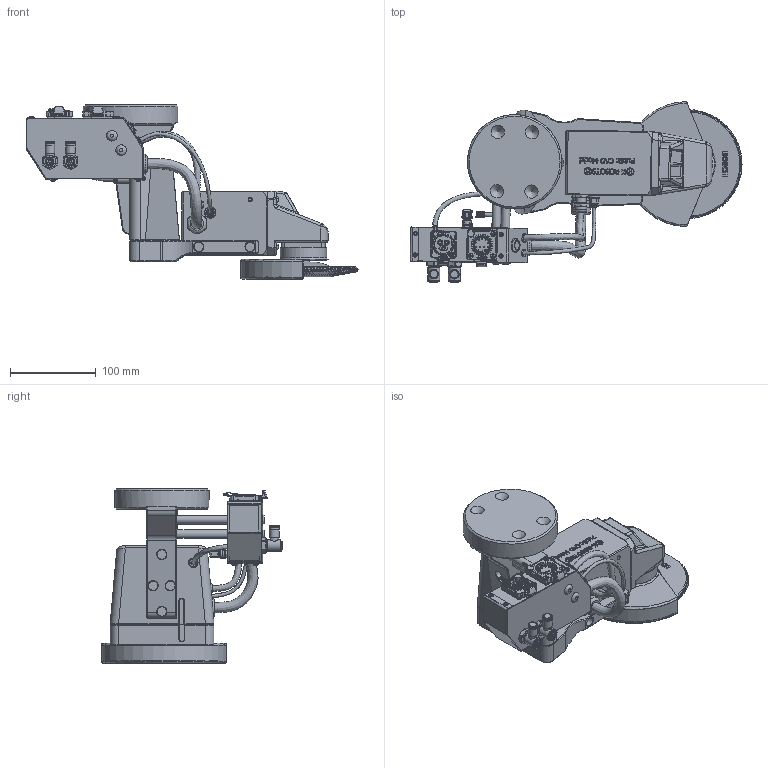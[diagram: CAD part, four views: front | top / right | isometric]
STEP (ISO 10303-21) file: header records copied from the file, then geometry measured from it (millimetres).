
FILE_DESCRIPTION(/* description */ (''),/* implementation_level */ '2;1');
FILE_NAME(/* name */ '',/* time_stamp */ '2026-04-02T13:21:28+02:00',/* author */ ('karan'),/* organization */ (''),/* preprocessor_version */ 'ST-DEVELOPER v20',/* originating_system */ 'Autodesk Inventor 2024',/* authorisation */ 'ERG_1500_Public_V2');
FILE_SCHEMA (('AUTOMOTIVE_DESIGN { 1 0 10303 214 3 1 1 }'));
Products named in the file (1): Bosch_Flex_V2_Public_Упростить_
1
Bounding box: 387.2 x 211.3 x 203.26 mm (x, y, z)
Surface area: 368406.5 mm2
Topology: 2 solids, 99 shells, 4154 faces, 14203 edges, 9839 vertices
Faces by surface type: plane 2168, cylinder 765, bspline 744, cone 275, torus 163, sphere 39
Full cylindrical faces by diameter (mm): 4.5 x3, 4.9 x1, 5 x8, 5.5 x4, 6 x1, 7 x2, 7.4 x5, 9 x3, 9.5 x3, 9.7 x1, 9.75 x4, 10 x5, 11 x14, 12 x1, 13 x2, 13.5 x1, 13.8 x2, 14 x3, 16 x1, 20 x1, 21.8 x2, 22 x1, 23.175 x1, 50 x1, 54 x1, 110 x1, 124 x1
Entity records: 193493 total; most frequent: CARTESIAN_POINT 74688, ORIENTED_EDGE 24307, DIRECTION 20917, EDGE_CURVE 14149, VERTEX_POINT 9839, LINE 7821, VECTOR 7821, AXIS2_PLACEMENT_3D 6548
